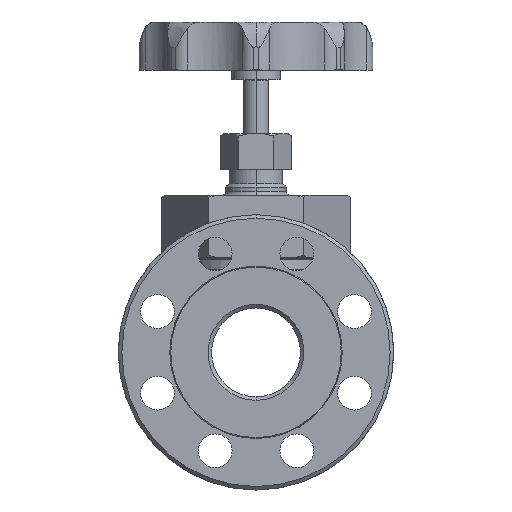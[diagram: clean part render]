
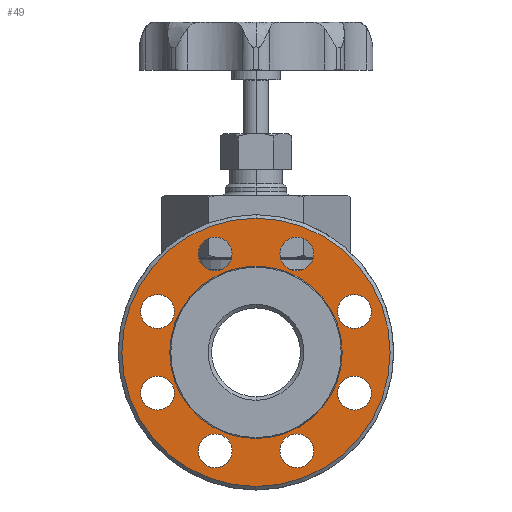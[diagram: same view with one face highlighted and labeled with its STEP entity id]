
A CAD part, left-side view. The second image highlights one B-rep face of the part: STEP entity #49.
In plain terms, the highlighted planar face has unit normal (-1, 0, 0).
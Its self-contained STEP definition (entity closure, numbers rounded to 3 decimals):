
#49=ADVANCED_FACE('',(#404,#405,#406,#407,#408,#409,#410,#411,#412,#413),#403,.F.);
#403=PLANE('',#3102);
#404=FACE_OUTER_BOUND('',#3103,.T.);
#405=FACE_BOUND('',#3104,.T.);
#406=FACE_BOUND('',#3105,.T.);
#407=FACE_BOUND('',#3106,.T.);
#408=FACE_BOUND('',#3107,.T.);
#409=FACE_BOUND('',#3108,.T.);
#410=FACE_BOUND('',#3109,.T.);
#411=FACE_BOUND('',#3110,.T.);
#412=FACE_BOUND('',#3111,.T.);
#413=FACE_BOUND('',#3112,.T.);
#3099=CARTESIAN_POINT('',(-113.,-140.77,85.5));
#3100=DIRECTION('',(1.,0.,0.));
#3101=DIRECTION('',(0.,0.,-1.));
#3102=AXIS2_PLACEMENT_3D('',#3099,#3100,#3101);
#3103=EDGE_LOOP('',(#5221,#5222));
#3104=EDGE_LOOP('',(#5223,#5224));
#3105=EDGE_LOOP('',(#5225,#5226));
#3106=EDGE_LOOP('',(#5227,#5228));
#3107=EDGE_LOOP('',(#5229,#5230));
#3108=EDGE_LOOP('',(#5231,#5232));
#3109=EDGE_LOOP('',(#5233,#5234));
#3110=EDGE_LOOP('',(#5235,#5236));
#3111=EDGE_LOOP('',(#5237,#5238));
#3112=EDGE_LOOP('',(#5239,#5240));
#5221=ORIENTED_EDGE('',*,*,#6749,.T.);
#5222=ORIENTED_EDGE('',*,*,#6750,.T.);
#5223=ORIENTED_EDGE('',*,*,#6751,.T.);
#5224=ORIENTED_EDGE('',*,*,#6752,.T.);
#5225=ORIENTED_EDGE('',*,*,#6753,.T.);
#5226=ORIENTED_EDGE('',*,*,#6754,.T.);
#5227=ORIENTED_EDGE('',*,*,#6755,.T.);
#5228=ORIENTED_EDGE('',*,*,#6756,.T.);
#5229=ORIENTED_EDGE('',*,*,#6757,.F.);
#5230=ORIENTED_EDGE('',*,*,#6758,.F.);
#5231=ORIENTED_EDGE('',*,*,#6759,.T.);
#5232=ORIENTED_EDGE('',*,*,#6760,.T.);
#5233=ORIENTED_EDGE('',*,*,#6761,.T.);
#5234=ORIENTED_EDGE('',*,*,#6762,.T.);
#5235=ORIENTED_EDGE('',*,*,#6763,.T.);
#5236=ORIENTED_EDGE('',*,*,#6764,.T.);
#5237=ORIENTED_EDGE('',*,*,#6765,.T.);
#5238=ORIENTED_EDGE('',*,*,#6766,.T.);
#5239=ORIENTED_EDGE('',*,*,#6767,.T.);
#5240=ORIENTED_EDGE('',*,*,#6768,.T.);
#6749=EDGE_CURVE('',#8321,#8322,#8323,.T.);
#6750=EDGE_CURVE('',#8322,#8321,#8329,.T.);
#6751=EDGE_CURVE('',#8335,#8336,#8337,.T.);
#6752=EDGE_CURVE('',#8336,#8335,#8343,.T.);
#6753=EDGE_CURVE('',#8349,#8350,#8351,.T.);
#6754=EDGE_CURVE('',#8350,#8349,#8357,.T.);
#6755=EDGE_CURVE('',#8363,#8364,#8365,.T.);
#6756=EDGE_CURVE('',#8364,#8363,#8371,.T.);
#6757=EDGE_CURVE('',#8377,#8378,#8379,.T.);
#6758=EDGE_CURVE('',#8378,#8377,#8385,.T.);
#6759=EDGE_CURVE('',#8391,#8392,#8393,.T.);
#6760=EDGE_CURVE('',#8392,#8391,#8399,.T.);
#6761=EDGE_CURVE('',#8405,#8406,#8407,.T.);
#6762=EDGE_CURVE('',#8406,#8405,#8413,.T.);
#6763=EDGE_CURVE('',#8419,#8420,#8421,.T.);
#6764=EDGE_CURVE('',#8420,#8419,#8427,.T.);
#6765=EDGE_CURVE('',#8433,#8434,#8435,.T.);
#6766=EDGE_CURVE('',#8434,#8433,#8441,.T.);
#6767=EDGE_CURVE('',#8447,#8448,#8449,.T.);
#6768=EDGE_CURVE('',#8448,#8447,#8455,.T.);
#8321=VERTEX_POINT('',#13273);
#8322=VERTEX_POINT('',#13274);
#8323=CIRCLE('',#13278,75.5);
#8329=CIRCLE('',#13282,75.5);
#8335=VERTEX_POINT('',#13283);
#8336=VERTEX_POINT('',#13284);
#8337=CIRCLE('',#13288,9.5);
#8343=CIRCLE('',#13292,9.5);
#8349=VERTEX_POINT('',#13293);
#8350=VERTEX_POINT('',#13294);
#8351=CIRCLE('',#13298,9.5);
#8357=CIRCLE('',#13302,9.5);
#8363=VERTEX_POINT('',#13303);
#8364=VERTEX_POINT('',#13304);
#8365=CIRCLE('',#13308,9.5);
#8371=CIRCLE('',#13312,9.5);
#8377=VERTEX_POINT('',#13313);
#8378=VERTEX_POINT('',#13314);
#8379=CIRCLE('',#13318,48.536);
#8385=CIRCLE('',#13322,48.536);
#8391=VERTEX_POINT('',#13323);
#8392=VERTEX_POINT('',#13324);
#8393=CIRCLE('',#13328,9.5);
#8399=CIRCLE('',#13332,9.5);
#8405=VERTEX_POINT('',#13333);
#8406=VERTEX_POINT('',#13334);
#8407=CIRCLE('',#13338,9.5);
#8413=CIRCLE('',#13342,9.5);
#8419=VERTEX_POINT('',#13343);
#8420=VERTEX_POINT('',#13344);
#8421=CIRCLE('',#13348,9.5);
#8427=CIRCLE('',#13352,9.5);
#8433=VERTEX_POINT('',#13353);
#8434=VERTEX_POINT('',#13354);
#8435=CIRCLE('',#13358,9.5);
#8441=CIRCLE('',#13362,9.5);
#8447=VERTEX_POINT('',#13363);
#8448=VERTEX_POINT('',#13364);
#8449=CIRCLE('',#13368,9.5);
#8455=CIRCLE('',#13372,9.5);
#13273=CARTESIAN_POINT('',(-113.,0.,75.5));
#13274=CARTESIAN_POINT('',(-113.,0.,-75.5));
#13275=CARTESIAN_POINT('',(-113.,0.,0.));
#13276=DIRECTION('',(-1.,0.,0.));
#13277=DIRECTION('',(0.,0.,1.));
#13278=AXIS2_PLACEMENT_3D('',#13275,#13276,#13277);
#13279=CARTESIAN_POINT('',(-113.,0.,0.));
#13280=DIRECTION('',(-1.,0.,0.));
#13281=DIRECTION('',(0.,0.,1.));
#13282=AXIS2_PLACEMENT_3D('',#13279,#13280,#13281);
#13283=CARTESIAN_POINT('',(-113.,-55.433,32.461));
#13284=CARTESIAN_POINT('',(-113.,-55.433,13.461));
#13285=CARTESIAN_POINT('',(-113.,-55.433,22.961));
#13286=DIRECTION('',(1.,0.,0.));
#13287=DIRECTION('',(0.,0.,1.));
#13288=AXIS2_PLACEMENT_3D('',#13285,#13286,#13287);
#13289=CARTESIAN_POINT('',(-113.,-55.433,22.961));
#13290=DIRECTION('',(1.,0.,0.));
#13291=DIRECTION('',(0.,0.,1.));
#13292=AXIS2_PLACEMENT_3D('',#13289,#13290,#13291);
#13293=CARTESIAN_POINT('',(-113.,-22.961,-45.933));
#13294=CARTESIAN_POINT('',(-113.,-22.961,-64.933));
#13295=CARTESIAN_POINT('',(-113.,-22.961,-55.433));
#13296=DIRECTION('',(1.,0.,0.));
#13297=DIRECTION('',(0.,0.,1.));
#13298=AXIS2_PLACEMENT_3D('',#13295,#13296,#13297);
#13299=CARTESIAN_POINT('',(-113.,-22.961,-55.433));
#13300=DIRECTION('',(1.,0.,0.));
#13301=DIRECTION('',(0.,0.,1.));
#13302=AXIS2_PLACEMENT_3D('',#13299,#13300,#13301);
#13303=CARTESIAN_POINT('',(-113.,55.433,-13.461));
#13304=CARTESIAN_POINT('',(-113.,55.433,-32.461));
#13305=CARTESIAN_POINT('',(-113.,55.433,-22.961));
#13306=DIRECTION('',(1.,0.,0.));
#13307=DIRECTION('',(0.,0.,1.));
#13308=AXIS2_PLACEMENT_3D('',#13305,#13306,#13307);
#13309=CARTESIAN_POINT('',(-113.,55.433,-22.961));
#13310=DIRECTION('',(1.,0.,0.));
#13311=DIRECTION('',(0.,0.,1.));
#13312=AXIS2_PLACEMENT_3D('',#13309,#13310,#13311);
#13313=CARTESIAN_POINT('',(-113.,0.,-48.536));
#13314=CARTESIAN_POINT('',(-113.,0.,48.536));
#13315=CARTESIAN_POINT('',(-113.,0.,0.));
#13316=DIRECTION('',(-1.,0.,0.));
#13317=DIRECTION('',(0.,0.,1.));
#13318=AXIS2_PLACEMENT_3D('',#13315,#13316,#13317);
#13319=CARTESIAN_POINT('',(-113.,0.,0.));
#13320=DIRECTION('',(-1.,0.,0.));
#13321=DIRECTION('',(0.,0.,1.));
#13322=AXIS2_PLACEMENT_3D('',#13319,#13320,#13321);
#13323=CARTESIAN_POINT('',(-113.,22.961,64.933));
#13324=CARTESIAN_POINT('',(-113.,22.961,45.933));
#13325=CARTESIAN_POINT('',(-113.,22.961,55.433));
#13326=DIRECTION('',(1.,0.,0.));
#13327=DIRECTION('',(0.,0.,1.));
#13328=AXIS2_PLACEMENT_3D('',#13325,#13326,#13327);
#13329=CARTESIAN_POINT('',(-113.,22.961,55.433));
#13330=DIRECTION('',(1.,0.,0.));
#13331=DIRECTION('',(0.,0.,1.));
#13332=AXIS2_PLACEMENT_3D('',#13329,#13330,#13331);
#13333=CARTESIAN_POINT('',(-113.,22.961,-45.933));
#13334=CARTESIAN_POINT('',(-113.,22.961,-64.933));
#13335=CARTESIAN_POINT('',(-113.,22.961,-55.433));
#13336=DIRECTION('',(1.,0.,0.));
#13337=DIRECTION('',(0.,0.,1.));
#13338=AXIS2_PLACEMENT_3D('',#13335,#13336,#13337);
#13339=CARTESIAN_POINT('',(-113.,22.961,-55.433));
#13340=DIRECTION('',(1.,0.,0.));
#13341=DIRECTION('',(0.,0.,1.));
#13342=AXIS2_PLACEMENT_3D('',#13339,#13340,#13341);
#13343=CARTESIAN_POINT('',(-113.,-55.433,-13.461));
#13344=CARTESIAN_POINT('',(-113.,-55.433,-32.461));
#13345=CARTESIAN_POINT('',(-113.,-55.433,-22.961));
#13346=DIRECTION('',(1.,0.,0.));
#13347=DIRECTION('',(0.,0.,1.));
#13348=AXIS2_PLACEMENT_3D('',#13345,#13346,#13347);
#13349=CARTESIAN_POINT('',(-113.,-55.433,-22.961));
#13350=DIRECTION('',(1.,0.,0.));
#13351=DIRECTION('',(0.,0.,1.));
#13352=AXIS2_PLACEMENT_3D('',#13349,#13350,#13351);
#13353=CARTESIAN_POINT('',(-113.,-22.961,64.933));
#13354=CARTESIAN_POINT('',(-113.,-22.961,45.933));
#13355=CARTESIAN_POINT('',(-113.,-22.961,55.433));
#13356=DIRECTION('',(1.,0.,0.));
#13357=DIRECTION('',(0.,0.,1.));
#13358=AXIS2_PLACEMENT_3D('',#13355,#13356,#13357);
#13359=CARTESIAN_POINT('',(-113.,-22.961,55.433));
#13360=DIRECTION('',(1.,0.,0.));
#13361=DIRECTION('',(0.,0.,1.));
#13362=AXIS2_PLACEMENT_3D('',#13359,#13360,#13361);
#13363=CARTESIAN_POINT('',(-113.,55.433,32.461));
#13364=CARTESIAN_POINT('',(-113.,55.433,13.461));
#13365=CARTESIAN_POINT('',(-113.,55.433,22.961));
#13366=DIRECTION('',(1.,0.,0.));
#13367=DIRECTION('',(0.,0.,1.));
#13368=AXIS2_PLACEMENT_3D('',#13365,#13366,#13367);
#13369=CARTESIAN_POINT('',(-113.,55.433,22.961));
#13370=DIRECTION('',(1.,0.,0.));
#13371=DIRECTION('',(0.,0.,1.));
#13372=AXIS2_PLACEMENT_3D('',#13369,#13370,#13371);
